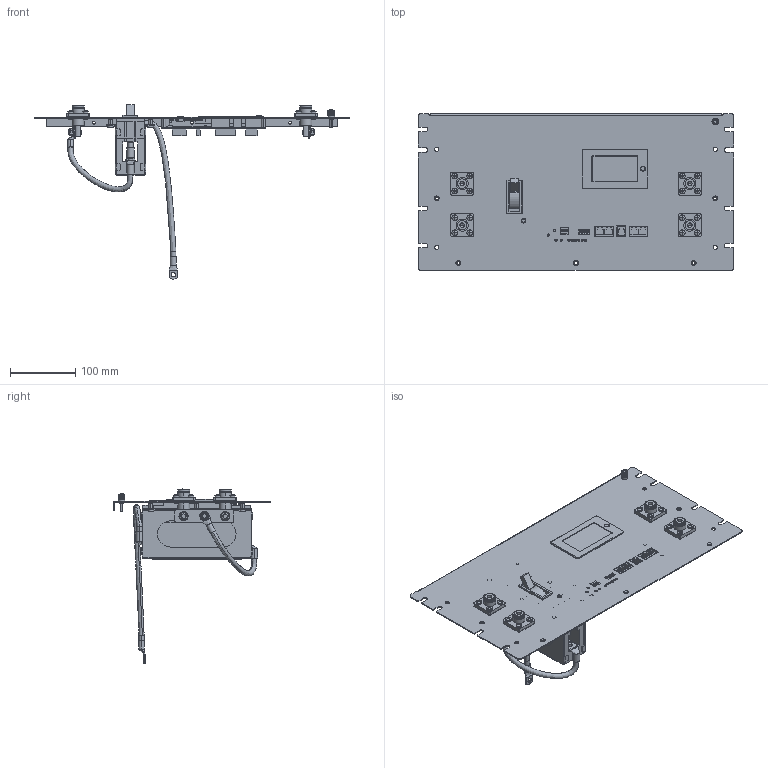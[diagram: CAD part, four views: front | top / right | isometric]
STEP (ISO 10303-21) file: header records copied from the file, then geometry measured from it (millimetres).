
FILE_DESCRIPTION (( 'STEP AP214' ), '1' );
FILE_NAME ('Front-Cover-JK200-Final-SR1-V3.STEP', '2024-06-14T05:32:51', ( '' ), ( '' ), 'SwSTEP 2.0', 'SolidWorks 2022', '' );
FILE_SCHEMA (( 'AUTOMOTIVE_DESIGN' ));
Length unit declared in the file: millimetre
Products named in the file (33): MIRO-80VDC-Fuse-Holder-V2; E-Landing-V2; 爾穩蹟譫M3-14-V2; 爾穩蹟譫M4-10-V2; 萇擢^Harness_1-Front-Cover-JK200-Final-SR1-V2; JK-Screen-3.5In; SC35-M6; TAIXI-Breaker-1P250A-Base-V2; T90-SC35-8; DIP-4P-V2; Reset-round-V2; hexagon nuts with flange gb_GB_HEXAGON_TYPE12 M6-C; BUSBAR-SR1-M; S-4嫗援傷赽200A-N-V2; 萇擢^Harness_2-Front-Cover-JK200-Final-SR1-V2; TAIXI-Breaker-1P250A-Final.SLDPRT-V2; 坋趼羞攫芛蹟隊M5X8; TAIXI-Breaker-1P250A-Switch-V2; Harness_1-Front-Cover-JK200-Final-SR1-V2; PC-BMS-Ports-Plate-V2; hex flange bolts-heavy grade b gb_GB_FASTENER_BOLT_HFBB M6X12-C; LED-6-GRE-V2; Front-Cover-JK200-Final-SR1-V3; 鞠褒揤穩蹟譫M4-2-V2; KF2EDG3.81-4P-Male-V2; Harness_2-Front-Cover-JK200-Final-SR1-V2; RJ45-Female-V2; Front-Cover-JK200N-SR1-V3; 坋趼羞攫芛蹟隊M4X10; LED-6-RED-V2; PC-BMS-Ports-Plate-Final.SLDPRT-V2; S-4嫗援傷赽200A-P-V2; RJ11-Female-V2
Assembly tree (93 placements, depth 3):
  Front-Cover-JK200-Final-SR1-V3
    Front-Cover-JK200N-SR1-V3
    MIRO-80VDC-Fuse-Holder-V2
    TAIXI-Breaker-1P250A-Final.SLDPRT-V2
      TAIXI-Breaker-1P250A-Base-V2
      TAIXI-Breaker-1P250A-Switch-V2
    S-4嫗援傷赽200A-N-V2  x2
    S-4嫗援傷赽200A-P-V2  x2
    PC-BMS-Ports-Plate-Final.SLDPRT-V2
      PC-BMS-Ports-Plate-V2
      RJ45-Female-V2  x2
      RJ11-Female-V2
      KF2EDG3.81-4P-Male-V2
      DIP-4P-V2
      Reset-round-V2
      LED-6-GRE-V2  x8
      LED-6-RED-V2
    E-Landing-V2
    鞠褒揤穩蹟譫M4-2-V2  x17
    爾穩蹟譫M4-10-V2  x6
    爾穩蹟譫M3-14-V2  x4
    T90-SC35-8  x2
    坋趼羞攫芛蹟隊M5X8  x16
    BUSBAR-SR1-M  x2
    hex flange bolts-heavy grade b gb_GB_FASTENER_BOLT_HFBB M6X12-C  x5
    SC35-M6  x2
    hexagon nuts with flange gb_GB_HEXAGON_TYPE12 M6-C
    Harness_1-Front-Cover-JK200-Final-SR1-V2
      萇擢^Harness_1-Front-Cover-JK200-Final-SR1-V2
    Harness_2-Front-Cover-JK200-Final-SR1-V2
      萇擢^Harness_2-Front-Cover-JK200-Final-SR1-V2
    坋趼羞攫芛蹟隊M4X10  x6
    JK-Screen-3.5In
Bounding box: 482.6 x 239.5 x 266.41 mm (x, y, z)
Volume: 840169.4 mm3; surface area: 497272.6 mm2
Topology: 134 solids, 134 shells, 2852 faces, 6687 edges, 4106 vertices
Faces by surface type: plane 1402, cylinder 1019, cone 163, sphere 118, torus 88, bspline 62
Entity records: 58152 total; most frequent: CARTESIAN_POINT 12756, DIRECTION 8864, ORIENTED_EDGE 8390, EDGE_CURVE 4195, AXIS2_PLACEMENT_3D 3055, LINE 2754, VECTOR 2754, VERTEX_POINT 2641
